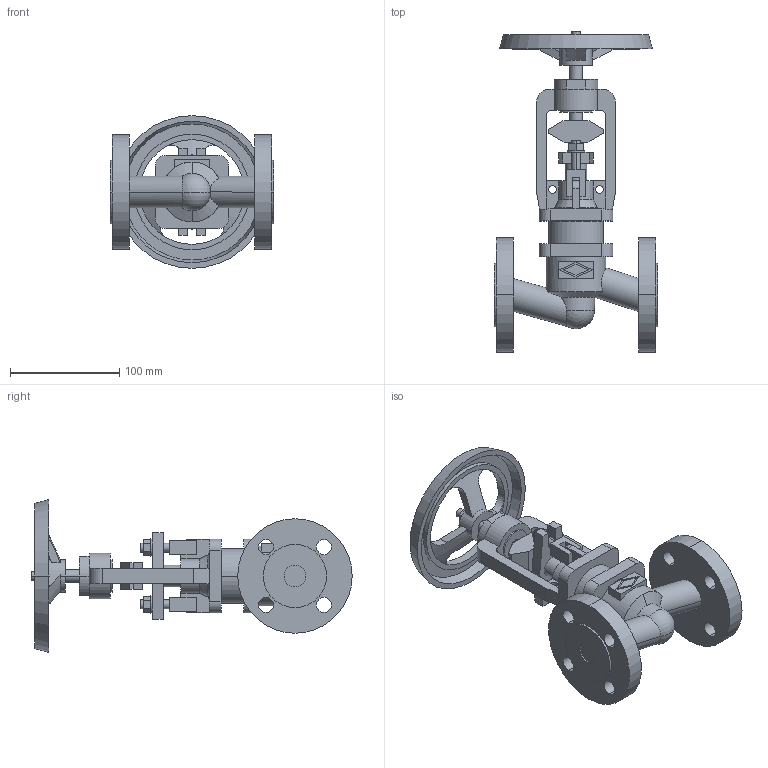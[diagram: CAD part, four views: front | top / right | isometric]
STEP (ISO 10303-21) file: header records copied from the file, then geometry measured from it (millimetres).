
FILE_DESCRIPTION(('OneSpaceDesigner STEP Export'),'2;1');
FILE_NAME('c000003758.stp','2009-06-16T11:00:23',(''),(''),'OneSpace Designer STEP processor for AP214 (Solid Model)','OneSpace Modeling 15.50B 03-Nov-2007 (C) CoCreate Software GmbH','');
FILE_SCHEMA(('AUTOMOTIVE_DESIGN { 1 0 10303 214 1 1 1 1 }'));
Length unit declared in the file: millimetre
Products named in the file (1): 1
Bounding box: 150 x 293.9 x 140 mm (x, y, z)
Volume: 802546.6 mm3; surface area: 158908.6 mm2
Topology: 1 solids, 1 shells, 284 faces, 743 edges, 486 vertices
Faces by surface type: plane 149, cylinder 107, cone 22, torus 4, sphere 2
Entity records: 10906 total; most frequent: CARTESIAN_POINT 1949, ORIENTED_EDGE 1482, DIRECTION 1241, EDGE_CURVE 741, VERTEX_POINT 486, VECTOR 435, LINE 435, AXIS2_PLACEMENT_3D 403
